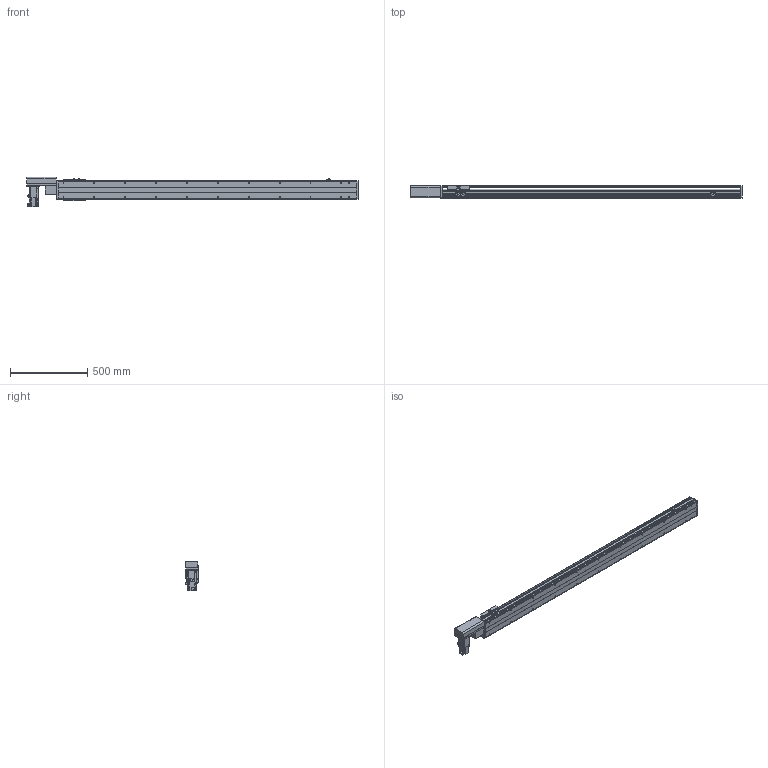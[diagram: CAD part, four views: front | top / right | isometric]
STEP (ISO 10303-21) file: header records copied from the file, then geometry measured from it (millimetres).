
FILE_DESCRIPTION( ( 'STEP AP214' ), '1' );
FILE_NAME( 'x:/temp/worker_27/temp/exporttempdir_6708_19_irwf7/format_0/PBS120-P40-S1650-R-T40-C1-N(0).stp', '2022-06-06T00:08:18', ( 'License CC BY-ND 4.0' ), ( 'CADENAS' ), ' ', 'PARTsolutions', ' ' );
FILE_SCHEMA( ( 'AUTOMOTIVE_DESIGN { 1 0 10303 214 1 1 1 1 }' ) );
Length unit declared in the file: millimetre
Products named in the file (7): PBS120-P40-S1650-R-T40-C1-N(0); _PBS120-S1650()_body; _PBS120T-R_motors; _T40-p1; _PBS120_sliser; _PBS120_plant; _PBS120_sensor
Assembly tree (8 placements, depth 2):
  PBS120-P40-S1650-R-T40-C1-N(0)
    _PBS120-S1650()_body
    _PBS120T-R_motors
    _T40-p1
    _PBS120_sliser
    _PBS120_plant
    _PBS120_sensor  x3
Bounding box: 2151 x 83 x 189.7 mm (x, y, z)
Volume: 8076803.3 mm3; surface area: 1630709.6 mm2
Topology: 8 solids, 8 shells, 846 faces, 2186 edges, 1405 vertices
Faces by surface type: plane 555, cylinder 235, cone 54, torus 2
Full cylindrical faces by diameter (mm): 2.459 x6, 3.242 x4, 4 x2, 4.134 x4, 4.5 x10, 4.917 x26, 5.5 x11, 6 x2, 6.6 x1, 7 x2, 8.5 x4, 9 x4, 12 x1, 14 x1, 30 x2, 40 x1, 50 x2
Entity records: 27828 total; most frequent: DIRECTION 3812, CARTESIAN_POINT 3731, ORIENTED_EDGE 3538, EDGE_CURVE 1769, AXIS2_PLACEMENT_3D 1292, LINE 1228, VECTOR 1228, VERTEX_POINT 1211
